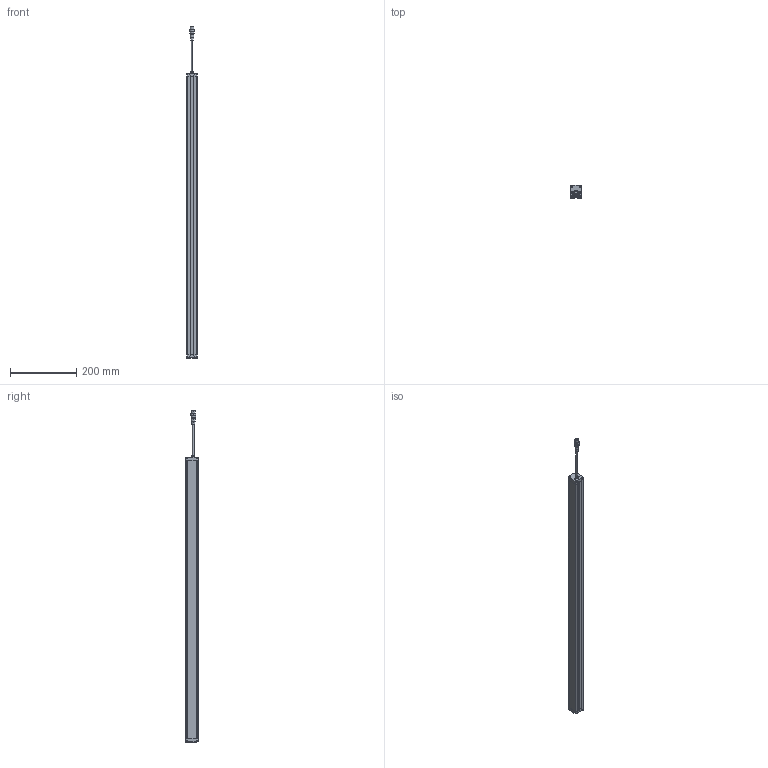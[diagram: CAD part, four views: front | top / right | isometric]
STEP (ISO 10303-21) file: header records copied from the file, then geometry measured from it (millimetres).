
FILE_DESCRIPTION((''),'2;1');
FILE_NAME('PRT0021','2026-03-31T11:09:38',('Administrator'),(''),'CREO PARAMETRIC BY PTC INC, 2016510','CREO PARAMETRIC BY PTC INC, 2016510','');
FILE_SCHEMA(('AUTOMOTIVE_DESIGN { 1 0 10303 214 1 1 1 1 }'));
Length unit declared in the file: millimetre
Products named in the file (1): PRT0021
Bounding box: 33 x 38 x 1001.9 mm (x, y, z)
Surface area: 192807.7 mm2 (no closed solid volume)
Topology: 0 solids, 12 shells, 819 faces, 2190 edges, 1390 vertices
Faces by surface type: plane 388, cylinder 235, extrusion 88, sphere 40, torus 36, cone 28, bspline 4
Entity records: 32413 total; most frequent: CARTESIAN_POINT 6114, ORIENTED_EDGE 4276, DIRECTION 4046, EDGE_CURVE 2138, VERTEX_POINT 1390, AXIS2_PLACEMENT_3D 1377, VECTOR 1292, LINE 1204
